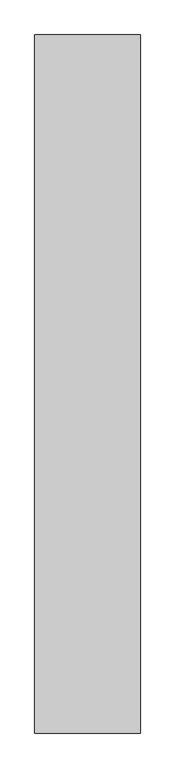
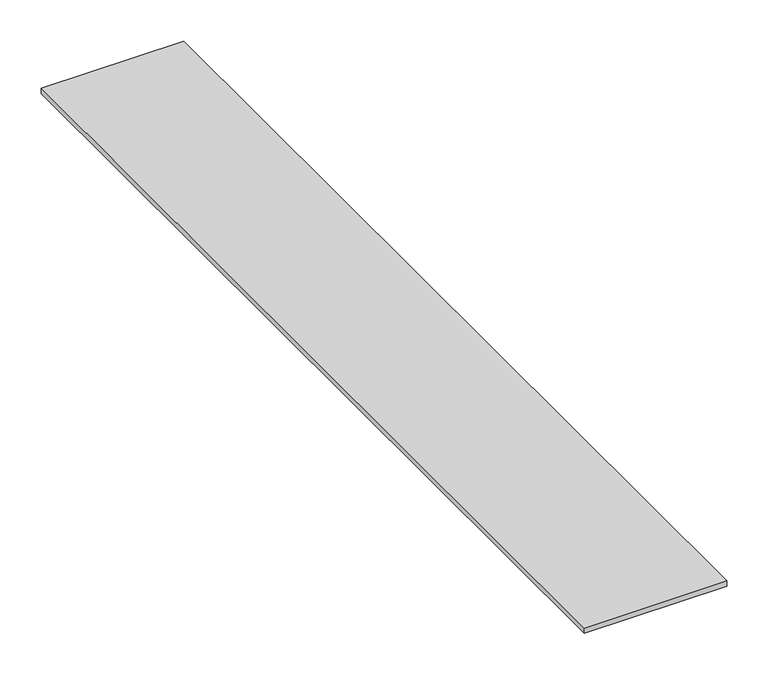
"""IFC4 building model written with IfcOpenShell, lengths in millimetres: proxy geometry, Фиброцементная сайдинг-панель LATONIT : 8 мм."""

from ifc_helpers import new_model, si_unit, frame, origin, place, context, project, spatial, polyline, outline, extrude, source, transform, mapped, element, save


def generic_models_e52442b3(model_context):
    return source(origin(), model_context, "Body", "SweptSolid", [
        extrude(outline(polyline([(200.0, 1321.5), (200.0, 0.0), (0.0, 0.0), (0.0, 1321.5), (200.0, 1321.5)])), frame((0.0, 0.0, 242.0), z_axis=(0.0, 0.0, 1.0), x_axis=(1.0, 0.0, 0.0)), (0.0, 0.0, 1.0), 8.0),
    ])


if __name__ == "__main__":
    model = new_model("IFC4")
    model_context = context("Model", 3, world=origin())
    ifc_project = project(units=[si_unit("LENGTHUNIT", "METRE", prefix="MILLI")], contexts=[model_context])
    site = spatial("IfcSite", under=ifc_project)
    building = spatial("IfcBuilding", under=site)
    placement = place(None, origin())
    generic_models_shape = generic_models_e52442b3(model_context)
    element("IfcBuildingElementProxy", 1, Name="Фиброцементная сайдинг-панель LATONIT : 8 мм", ObjectType="Фиброцементная сайдинг-панель LATONIT : 8 мм", at=placement, inside=building, context=model_context, shape_type="MappedRepresentation", body=[
        mapped(generic_models_shape, transform((0.0, 0.0, 0.0), x_axis=(1.0, 0.0, 0.0), y_axis=(0.0, 1.0, 0.0), z_axis=(0.0, 0.0, 1.0))),
    ])
    save(model, "model.ifc")
